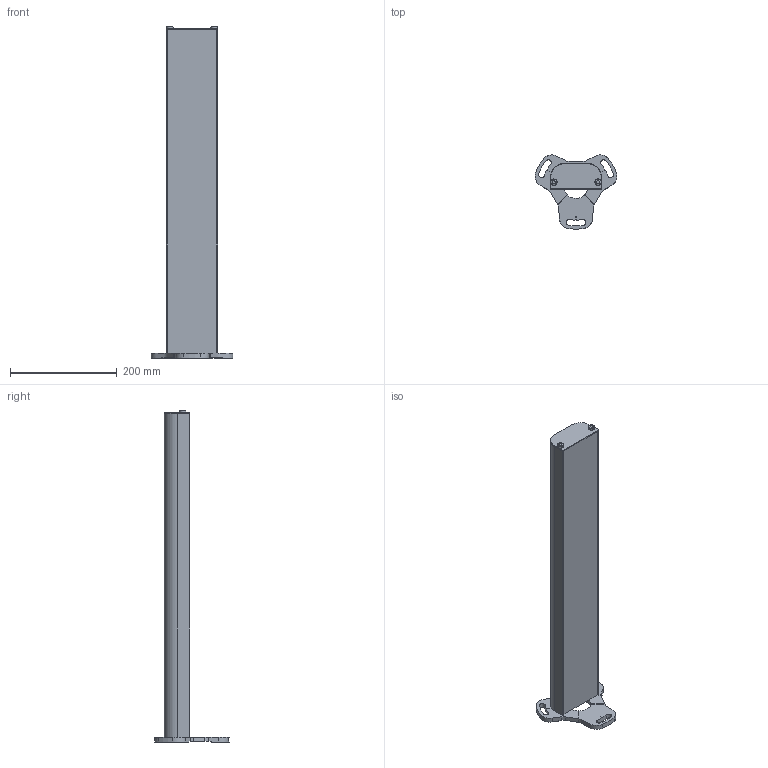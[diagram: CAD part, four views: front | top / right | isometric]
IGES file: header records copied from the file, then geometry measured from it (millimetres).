
Global section: file name: H305518_A_mirror_column_060_PSEN_opII_Kundendaten; native system: Autodesk Inventor 2017; preprocessor: unknown; author: damb; date: 20180405.135919; units: millimetre
Bounding box: 153.46 x 139.2 x 623.25 mm (x, y, z)
Volume: 2620753.6 mm3; surface area: 196625.4 mm2
Topology: 3 solids, 3 shells, 135 faces, 368 edges, 245 vertices
Faces by surface type: bspline 135
